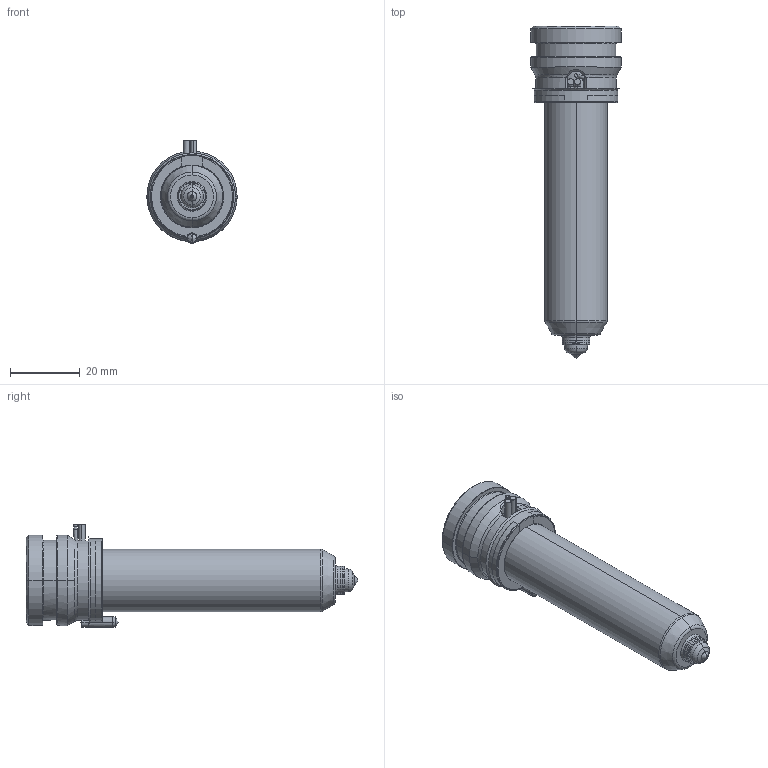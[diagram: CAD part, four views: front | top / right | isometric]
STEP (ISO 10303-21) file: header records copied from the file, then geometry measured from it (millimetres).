
FILE_DESCRIPTION((''),'2;1');
FILE_NAME('TH18077_5-A-1B15-PK-JG','2023-12-14T',('umhib'),('Thermoplay S.p.A.'),'PRO/ENGINEER BY PARAMETRIC TECHNOLOGY CORPORATION, 2017170','PRO/ENGINEER BY PARAMETRIC TECHNOLOGY CORPORATION, 2017170','');
FILE_SCHEMA(('CONFIG_CONTROL_DESIGN'));
Length unit declared in the file: millimetre
Products named in the file (1): TH18077_5-A-1B15-PK-JG
Bounding box: 26 x 95.5 x 29.5 mm (x, y, z)
Volume: 20504.4 mm3; surface area: 14954.8 mm2
Topology: 1 solids, 2 shells, 398 faces, 1036 edges, 643 vertices
Faces by surface type: cylinder 151, plane 85, cone 68, torus 56, bspline 24, sphere 12, extrusion 2
Entity records: 18093 total; most frequent: CARTESIAN_POINT 6125, ORIENTED_EDGE 2048, DIRECTION 2033, EDGE_CURVE 1026, AXIS2_PLACEMENT_3D 816, VERTEX_POINT 643, CIRCLE 443, EDGE_LOOP 418
